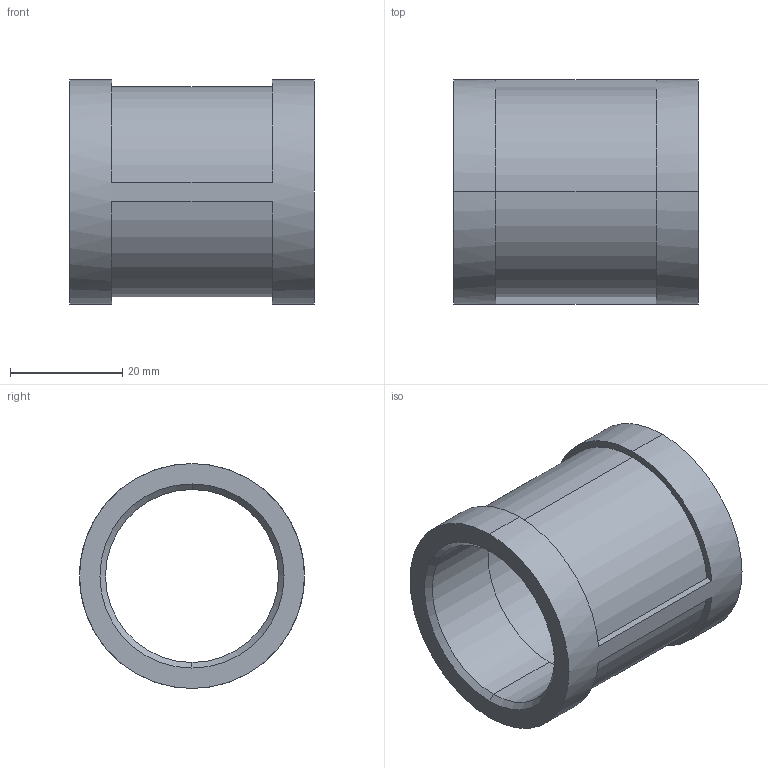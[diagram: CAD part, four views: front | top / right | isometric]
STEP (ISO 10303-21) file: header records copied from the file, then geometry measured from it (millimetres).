
FILE_DESCRIPTION (( 'STEP AP203' ), '1' );
FILE_NAME ('Wiberger-wn8625-a4-1tum.step', '2025-03-11T09:13:22', ( '' ), ( '' ), 'SwSTEP 2.0', 'SolidWorks 2023', '' );
FILE_SCHEMA (( 'CONFIG_CONTROL_DESIGN' ));
Length unit declared in the file: millimetre
Products named in the file (1): Wiberger-wn8625-a4-1tum
Bounding box: 43.5 x 40 x 40 mm (x, y, z)
Volume: 17341.2 mm3; surface area: 10968.3 mm2
Topology: 1 solids, 1 shells, 27 faces, 65 edges, 42 vertices
Faces by surface type: plane 12, cylinder 11, cone 4
Entity records: 882 total; most frequent: DIRECTION 155, CARTESIAN_POINT 135, ORIENTED_EDGE 130, EDGE_CURVE 65, AXIS2_PLACEMENT_3D 62, VERTEX_POINT 42, CIRCLE 34, LINE 31
